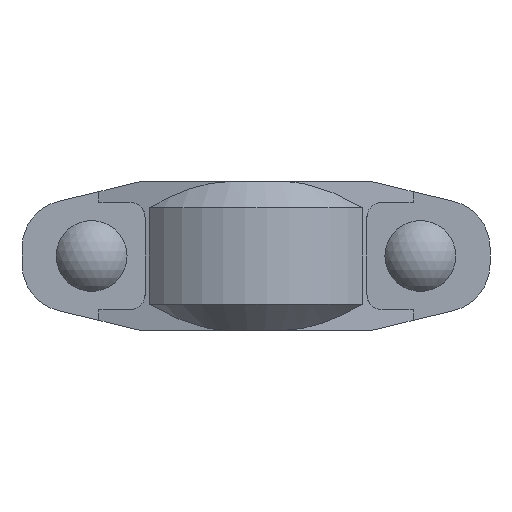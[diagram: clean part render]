
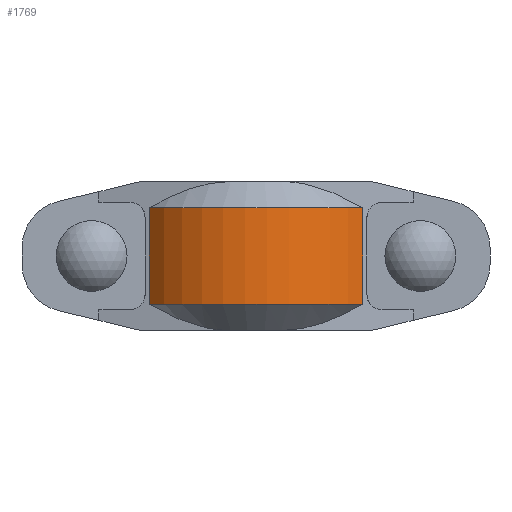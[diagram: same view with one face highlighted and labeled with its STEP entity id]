
A CAD part, front view. The second image highlights one B-rep face of the part: STEP entity #1769.
In plain terms, the highlighted cylindrical face has radius 42.545 mm (diameter 85.09 mm), a partial arc.
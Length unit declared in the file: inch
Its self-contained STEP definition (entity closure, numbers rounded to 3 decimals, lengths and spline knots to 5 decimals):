
#206=FACE_OUTER_BOUND('',#303,.T.);
#303=EDGE_LOOP('',(#1497,#1498,#1499,#1500));
#378=LINE('',#2666,#535);
#434=LINE('',#2829,#591);
#535=VECTOR('',#2139,0.3937);
#591=VECTOR('',#2271,0.3937);
#677=CIRCLE('',#1911,1.675);
#681=CIRCLE('',#1918,1.675);
#764=VERTEX_POINT('',#2661);
#765=VERTEX_POINT('',#2665);
#821=VERTEX_POINT('',#2824);
#822=VERTEX_POINT('',#2828);
#946=EDGE_CURVE('',#765,#764,#378,.T.);
#1021=EDGE_CURVE('',#822,#821,#434,.T.);
#1042=EDGE_CURVE('',#764,#822,#677,.T.);
#1049=EDGE_CURVE('',#765,#821,#681,.T.);
#1497=ORIENTED_EDGE('',*,*,#946,.T.);
#1498=ORIENTED_EDGE('',*,*,#1042,.T.);
#1499=ORIENTED_EDGE('',*,*,#1021,.T.);
#1500=ORIENTED_EDGE('',*,*,#1049,.F.);
#1601=CYLINDRICAL_SURFACE('',#1935,1.675);
#1769=ADVANCED_FACE('',(#206),#1601,.T.);
#1911=AXIS2_PLACEMENT_3D('',#2866,#2310,#2311);
#1918=AXIS2_PLACEMENT_3D('',#2880,#2327,#2328);
#1935=AXIS2_PLACEMENT_3D('',#2919,#2375,#2376);
#2139=DIRECTION('',(0.,0.,1.));
#2271=DIRECTION('',(0.,0.,-1.));
#2310=DIRECTION('center_axis',(0.,0.,-1.));
#2311=DIRECTION('ref_axis',(0.,-1.,0.));
#2327=DIRECTION('center_axis',(0.,0.,-1.));
#2328=DIRECTION('ref_axis',(0.,-1.,0.));
#2375=DIRECTION('center_axis',(0.,0.,-1.));
#2376=DIRECTION('ref_axis',(0.,-1.,0.));
#2661=CARTESIAN_POINT('',(1.31977,-1.03142,0.595));
#2665=CARTESIAN_POINT('',(1.31977,-1.03142,-0.595));
#2666=CARTESIAN_POINT('',(1.31977,-1.03142,0.));
#2824=CARTESIAN_POINT('',(-1.31977,-1.03142,-0.595));
#2828=CARTESIAN_POINT('',(-1.31977,-1.03142,0.595));
#2829=CARTESIAN_POINT('',(-1.31977,-1.03142,0.));
#2866=CARTESIAN_POINT('Origin',(0.,0.,0.595));
#2880=CARTESIAN_POINT('Origin',(0.,0.,-0.595));
#2919=CARTESIAN_POINT('Origin',(0.,0.,0.));
